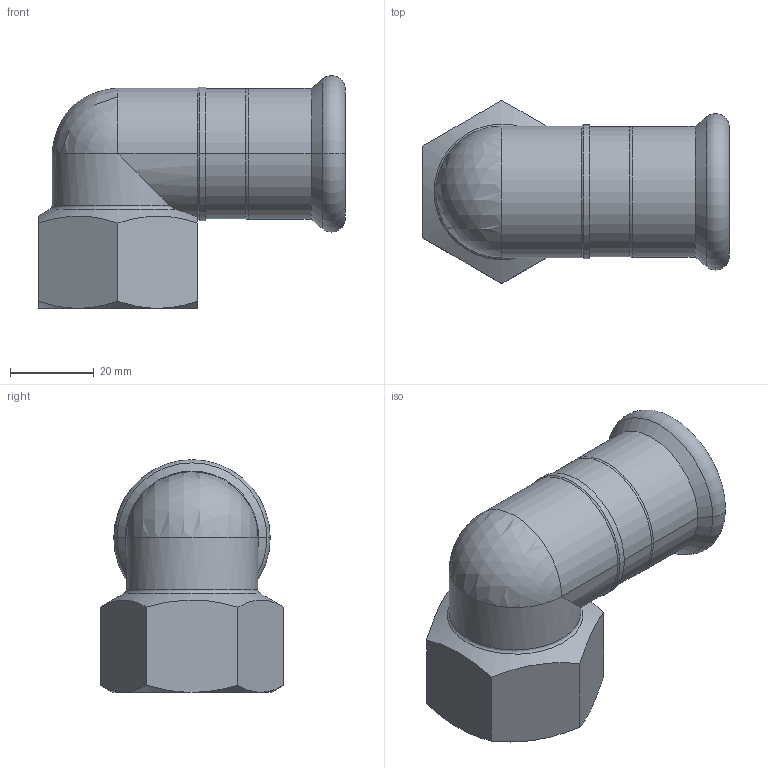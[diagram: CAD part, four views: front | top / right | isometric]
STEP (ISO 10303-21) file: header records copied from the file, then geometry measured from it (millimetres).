
FILE_DESCRIPTION(('Creo Elements/Direct Modeling STEP Export'),'2;1');
FILE_NAME('R2709 28xRp1.stp','2019-09-25T 8:27:58',(''),(''),'PTC Creo Elements/Direct Modeling STEP processor for AP214 (Solid Model)','PTC Creo Elements/Direct Modeling 19.0C 15-Aug-2015 (C) Parametric Technology GmbH','');
FILE_SCHEMA(('AUTOMOTIVE_DESIGN { 1 0 10303 214 1 1 1 1 }'));
Length unit declared in the file: millimetre
Products named in the file (1): R2709_28xRp1
Bounding box: 73.5 x 43.88 x 55.73 mm (x, y, z)
Volume: 26007.4 mm3; surface area: 19827.2 mm2
Topology: 1 solids, 1 shells, 88 faces, 216 edges, 134 vertices
Faces by surface type: plane 40, cylinder 30, cone 11, torus 5, sphere 2
Entity records: 3491 total; most frequent: CARTESIAN_POINT 1515, ORIENTED_EDGE 424, DIRECTION 367, EDGE_CURVE 212, VERTEX_POINT 134, AXIS2_PLACEMENT_3D 131, VECTOR 105, LINE 105
